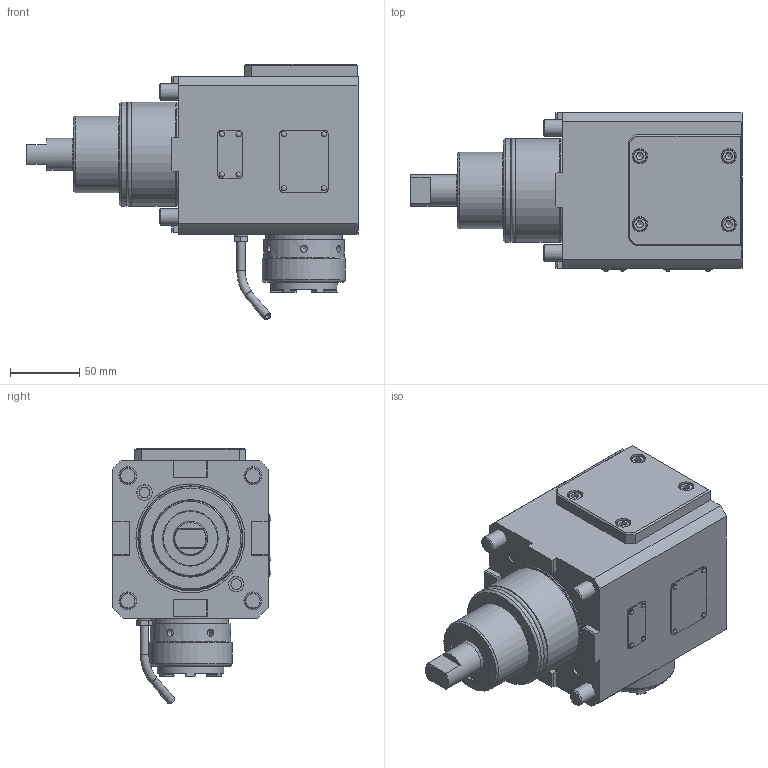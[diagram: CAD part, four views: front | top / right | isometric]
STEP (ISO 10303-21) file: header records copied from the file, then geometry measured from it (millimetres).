
FILE_DESCRIPTION(/* description */ (''),/* implementation_level */ '2;1');
FILE_NAME(/* name */ '196405',/* time_stamp */ '2020-05-26T08:12:45+02:00',/* author */ (''),/* organization */ (''),/* preprocessor_version */ 'ST-DEVELOPER v16.5',/* originating_system */ 'HiCAD 2017 2201.0 Build 268',/* authorisation */ '');
FILE_SCHEMA (('AUTOMOTIVE_DESIGN { 1 0 10303 214 1 1 1 1 }'));
Length unit declared in the file: millimetre
Products named in the file (13): Root; Teil; GEWINDE; DIN 13-M40x1
Assembly tree (12 placements, depth 3):
  Root
    Teil
      GEWINDE
      GEWINDE
      GEWINDE
      GEWINDE
      GEWINDE
      GEWINDE
      GEWINDE
      GEWINDE
      GEWINDE
      GEWINDE
      DIN 13-M40x1
Bounding box: 239 x 114.29 x 184.15 mm (x, y, z)
Volume: 2000509.7 mm3; surface area: 196150.6 mm2
Topology: 13 solids, 25 shells, 582 faces, 1371 edges, 893 vertices
Faces by surface type: plane 337, cylinder 160, cone 49, torus 24, sphere 8, bspline 4
Full cylindrical faces by diameter (mm): 2 x8, 2.2 x8, 4 x2, 4.773 x8, 5.1 x6, 6 x10, 6.6 x4, 7.65 x2, 8 x1, 8.773 x2, 10 x5, 10.2 x8, 11 x4, 11.01 x2, 11.1 x2, 12 x8, 13 x8, 20 x5, 23 x1, 25 x1, 30.499 x1, 30.5 x1, 33.5 x2, 35 x1, 36.2 x1, 37.03 x1, 38.92 x1, 40 x2, 41 x1, 47.9 x1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
Entity records: 35157 total; most frequent: CARTESIAN_POINT 9856, DIRECTION 2612, PRESENTATION_STYLE_ASSIGNMENT 2473, OVER_RIDING_STYLED_ITEM 2461, COLOUR_RGB 2205, DRAUGHTING_PRE_DEFINED_CURVE_FONT 2194, CURVE_STYLE 2194, ORIENTED_EDGE 2194
